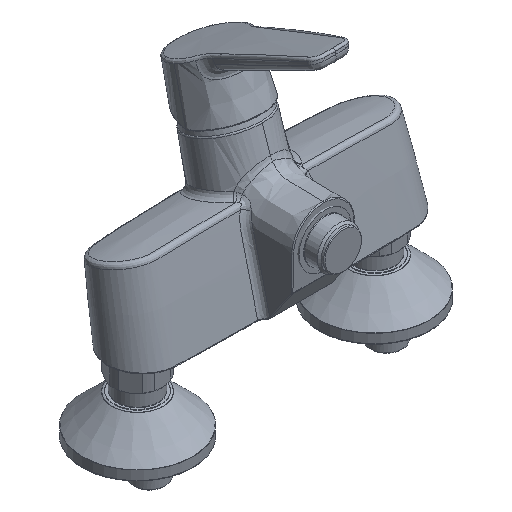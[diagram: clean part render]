
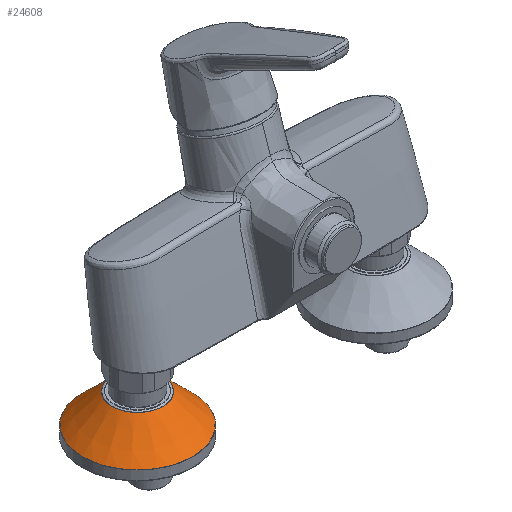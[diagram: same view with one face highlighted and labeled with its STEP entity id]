
A CAD part, isometric view. The second image highlights one B-rep face of the part: STEP entity #24608.
In plain terms, the highlighted conical face has half-angle 45.496 degrees and reference radius 35 mm.
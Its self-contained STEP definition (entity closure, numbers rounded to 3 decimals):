
#96 = DIRECTION ( 'NONE',  ( -1., 0., 0. ) ) ;
#838 = VERTEX_POINT ( 'NONE', #27633 ) ;
#3184 = AXIS2_PLACEMENT_3D ( 'NONE', #26157, #12061, #28473 ) ;
#3294 = EDGE_LOOP ( 'NONE', ( #28493 ) ) ;
#3724 = AXIS2_PLACEMENT_3D ( 'NONE', #14272, #16708, #28257 ) ;
#4032 = EDGE_LOOP ( 'NONE', ( #28856 ) ) ;
#4117 = CARTESIAN_POINT ( 'NONE',  ( -91.395, -0.268, 24.426 ) ) ;
#6585 = EDGE_CURVE ( 'NONE', #838, #838, #27382, .T. ) ;
#9714 = CIRCLE ( 'NONE', #12528, 16.252 ) ;
#12061 = DIRECTION ( 'NONE',  ( 0., 0., -1. ) ) ;
#12528 = AXIS2_PLACEMENT_3D ( 'NONE', #28541, #14564, #96 ) ;
#13955 = EDGE_CURVE ( 'NONE', #29047, #29047, #9714, .T. ) ;
#14272 = CARTESIAN_POINT ( 'NONE',  ( -75.143, -0.268, 6. ) ) ;
#14564 = DIRECTION ( 'NONE',  ( 0., 0., -1. ) ) ;
#14814 = CONICAL_SURFACE ( 'NONE', #3724, 35., 0.794 ) ;
#15212 = FACE_OUTER_BOUND ( 'NONE', #4032, .T. ) ;
#15614 = FACE_BOUND ( 'NONE', #3294, .T. ) ;
#16708 = DIRECTION ( 'NONE',  ( 0., 0., -1. ) ) ;
#24608 = ADVANCED_FACE ( 'NONE', ( #15614, #15212 ), #14814, .T. ) ;
#26157 = CARTESIAN_POINT ( 'NONE',  ( -75.143, -0.268, 6. ) ) ;
#27382 = CIRCLE ( 'NONE', #3184, 35. ) ;
#27633 = CARTESIAN_POINT ( 'NONE',  ( -110.143, -0.268, 6. ) ) ;
#28257 = DIRECTION ( 'NONE',  ( -1., 0., 0. ) ) ;
#28473 = DIRECTION ( 'NONE',  ( -1., 0., 0. ) ) ;
#28493 = ORIENTED_EDGE ( 'NONE', *, *, #13955, .T. ) ;
#28541 = CARTESIAN_POINT ( 'NONE',  ( -75.143, -0.268, 24.426 ) ) ;
#28856 = ORIENTED_EDGE ( 'NONE', *, *, #6585, .F. ) ;
#29047 = VERTEX_POINT ( 'NONE', #4117 ) ;
